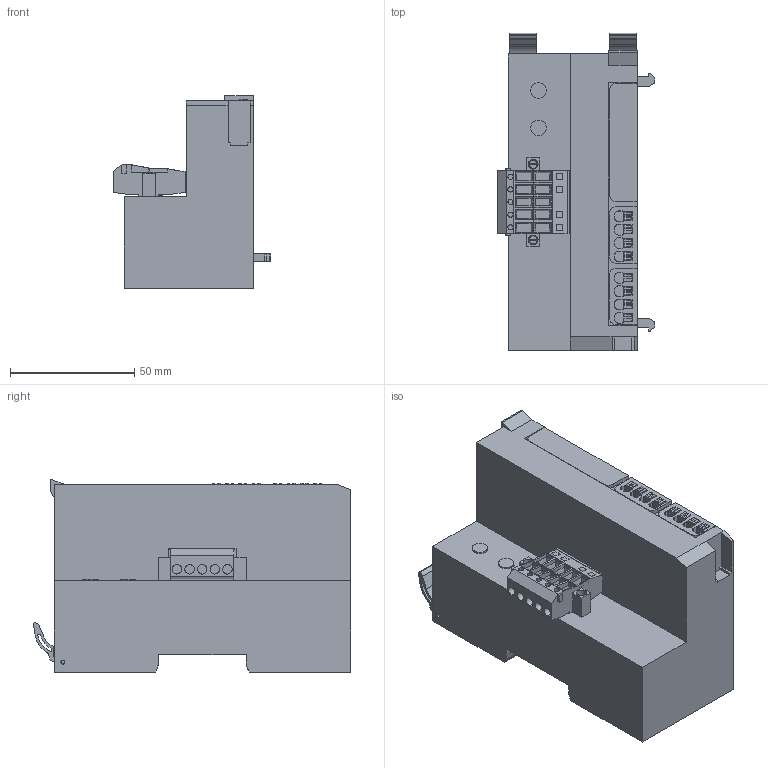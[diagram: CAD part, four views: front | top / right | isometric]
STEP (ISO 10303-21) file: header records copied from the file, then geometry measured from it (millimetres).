
FILE_DESCRIPTION(('CATIA V5 STEP Exchange','CAx-IF Rec.Pracs.--- Model Styling and Organization---1.4--- 2014-01-23'),'2;1');
FILE_NAME('C:\Users\w011653\Desktop\S3D\Remo\S3D_NZ2FT-BT.stp','2020-04-29T12:03:21+00:00',('none'),('none'),'CATIA Version 5-6 Release 2016 SP3 HF44','CATIA V5 STEP AP214','none');
FILE_SCHEMA(('AUTOMOTIVE_DESIGN { 1 0 10303 214 1 1 1 1 }'));
Length unit declared in the file: millimetre
Products named in the file (1): S3D_NZ2FT-BT
Bounding box: 63.43 x 127.88 x 77.45 mm (x, y, z)
Volume: 347831.3 mm3; surface area: 48476.7 mm2
Topology: 16 solids, 16 shells, 719 faces, 1866 edges, 1246 vertices
Faces by surface type: plane 493, cylinder 188, cone 22, torus 16
Entity records: 23210 total; most frequent: CARTESIAN_POINT 4971, ORIENTED_EDGE 3732, DIRECTION 3190, EDGE_CURVE 1866, VECTOR 1334, LINE 1334, VERTEX_POINT 1246, AXIS2_PLACEMENT_3D 1152
